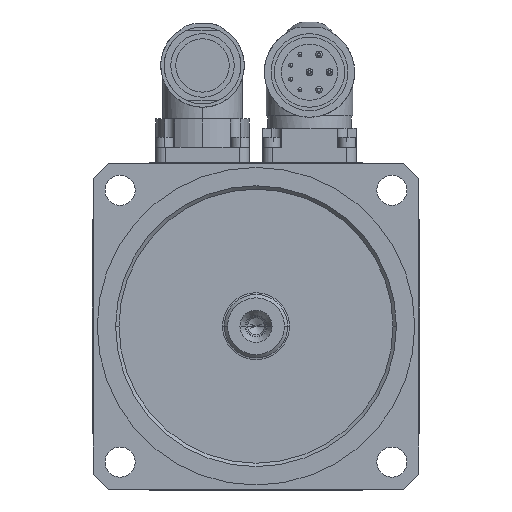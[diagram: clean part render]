
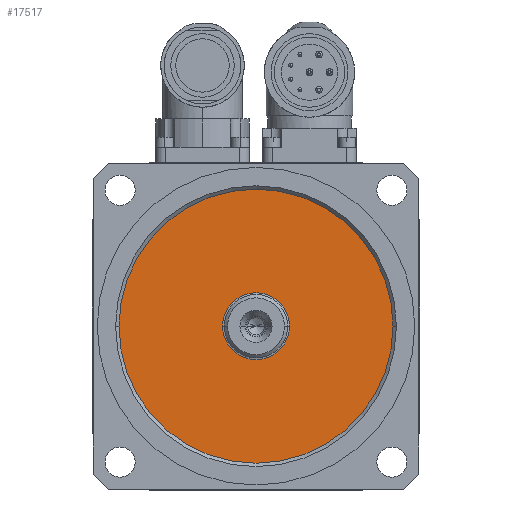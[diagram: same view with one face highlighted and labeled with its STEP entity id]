
A CAD part, left-side view. The second image highlights one B-rep face of the part: STEP entity #17517.
In plain terms, the highlighted planar face has unit normal (-1, 0, 0).
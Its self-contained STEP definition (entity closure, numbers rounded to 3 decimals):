
#6480=CARTESIAN_POINT('',(1.5,0.,0.));
#6481=DIRECTION('',(-1.,0.,0.));
#6482=DIRECTION('',(0.,-1.,0.));
#6483=AXIS2_PLACEMENT_3D('',#6480,#6481,#6482);
#6488=CARTESIAN_POINT('',(1.5,0.,0.));
#6489=DIRECTION('',(-1.,0.,0.));
#6490=DIRECTION('',(0.,1.,0.));
#6491=AXIS2_PLACEMENT_3D('',#6488,#6489,#6490);
#6496=CARTESIAN_POINT('',(1.5,0.,0.));
#6497=DIRECTION('',(1.,0.,0.));
#6498=DIRECTION('',(0.,1.,0.));
#6499=AXIS2_PLACEMENT_3D('',#6496,#6497,#6498);
#6504=CARTESIAN_POINT('',(1.5,0.,0.));
#6505=DIRECTION('',(1.,0.,0.));
#6506=DIRECTION('',(0.,-1.,0.));
#6507=AXIS2_PLACEMENT_3D('',#6504,#6505,#6506);
#9275=CARTESIAN_POINT('',(1.5,10.,0.));
#9276=CARTESIAN_POINT('',(1.5,-10.,0.));
#9277=VERTEX_POINT('',#9275);
#9278=VERTEX_POINT('',#9276);
#9366=CARTESIAN_POINT('',(1.5,-41.,0.));
#9367=VERTEX_POINT('',#9366);
#9862=CARTESIAN_POINT('',(1.5,41.,0.));
#9863=VERTEX_POINT('',#9862);
#17504=CARTESIAN_POINT('',(1.5,0.,0.));
#17505=DIRECTION('',(-1.,0.,0.));
#17506=DIRECTION('',(0.,-1.,0.));
#17507=AXIS2_PLACEMENT_3D('',#17504,#17505,#17506);
#17508=PLANE('',#17507);
#17509=ORIENTED_EDGE('',*,*,#14868,.F.);
#17510=ORIENTED_EDGE('',*,*,#13116,.F.);
#17511=EDGE_LOOP('',(#17509,#17510));
#17512=FACE_OUTER_BOUND('',#17511,.F.);
#17513=ORIENTED_EDGE('',*,*,#14760,.F.);
#17514=ORIENTED_EDGE('',*,*,#11485,.F.);
#17515=EDGE_LOOP('',(#17513,#17514));
#17516=FACE_BOUND('',#17515,.F.);
#6484=CIRCLE('',#6483,41.);
#6492=CIRCLE('',#6491,41.);
#6500=CIRCLE('',#6499,10.);
#6508=CIRCLE('',#6507,10.);
#11485=EDGE_CURVE('',#9278,#9277,#6508,.T.);
#13116=EDGE_CURVE('',#9863,#9367,#6492,.T.);
#14760=EDGE_CURVE('',#9277,#9278,#6500,.T.);
#14868=EDGE_CURVE('',#9367,#9863,#6484,.T.);
#17517=ADVANCED_FACE('',(#17512,#17516),#17508,.T.);
